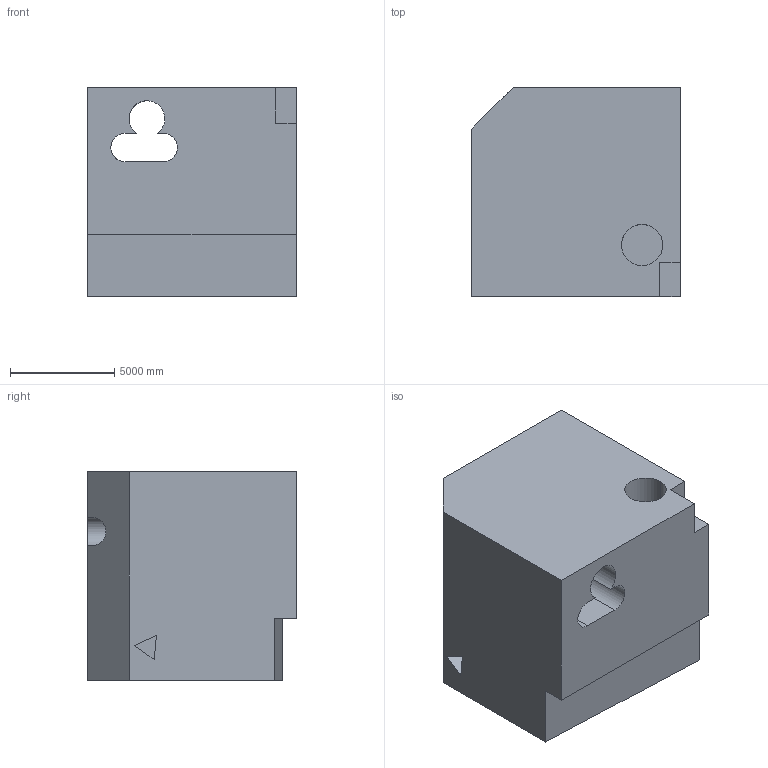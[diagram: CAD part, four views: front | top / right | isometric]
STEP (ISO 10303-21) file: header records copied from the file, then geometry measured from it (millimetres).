
FILE_DESCRIPTION (( 'STEP AP203' ), '1' );
FILE_NAME ('72.STEP', '2022-08-30T14:22:00', ( 'user' ), ( '' ), 'SwSTEP 2.0', 'SolidWorks 2021', '' );
FILE_SCHEMA (( 'CONFIG_CONTROL_DESIGN' ));
Length unit declared in the file: centimetre
Products named in the file (1): 72
Bounding box: 10000 x 10000 x 10000 mm (x, y, z)
Volume: 867136731983.4 mm3; surface area: 733285680 mm2
Topology: 1 solids, 1 shells, 34 faces, 90 edges, 60 vertices
Faces by surface type: plane 28, cylinder 6
Entity records: 1127 total; most frequent: CARTESIAN_POINT 191, ORIENTED_EDGE 180, DIRECTION 170, EDGE_CURVE 90, VECTOR 76, LINE 76, VERTEX_POINT 60, AXIS2_PLACEMENT_3D 47
